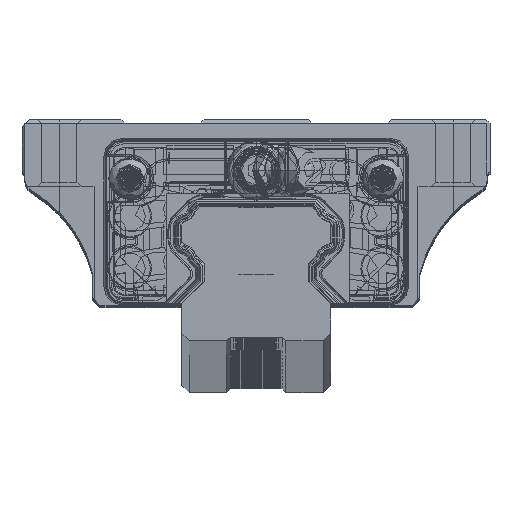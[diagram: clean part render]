
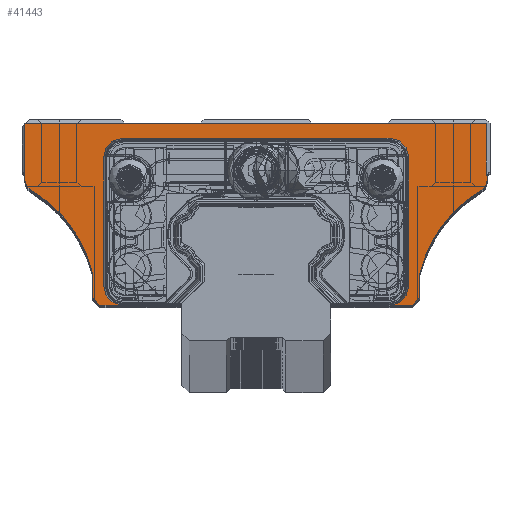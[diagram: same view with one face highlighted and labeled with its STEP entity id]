
A CAD part, top view. The second image highlights one B-rep face of the part: STEP entity #41443.
In plain terms, the highlighted planar face has unit normal (0, 0, 1).
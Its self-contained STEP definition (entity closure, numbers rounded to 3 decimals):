
#12719=CARTESIAN_POINT('',(18.,10.45,31.7));
#12720=DIRECTION('',(0.,0.,1.));
#12721=DIRECTION('',(1.,0.,0.));
#12722=AXIS2_PLACEMENT_3D('',#12719,#12720,#12721);
#12724=CARTESIAN_POINT('',(-18.,10.45,31.7));
#12725=DIRECTION('',(0.,0.,1.));
#12726=DIRECTION('',(0.,1.,0.));
#12727=AXIS2_PLACEMENT_3D('',#12724,#12725,#12726);
#12729=CARTESIAN_POINT('',(-18.,-7.,31.7));
#12730=DIRECTION('',(0.,0.,1.));
#12731=DIRECTION('',(-1.,0.,0.));
#12732=AXIS2_PLACEMENT_3D('',#12729,#12730,#12731);
#12734=DIRECTION('',(-1.,0.,0.));
#12735=VECTOR('',#12734,3.025);
#12736=CARTESIAN_POINT('',(-18.,-9.5,31.7));
#12737=LINE('',#12736,#12735);
#12738=DIRECTION('',(-0.707,0.707,0.));
#12739=VECTOR('',#12738,1.414);
#12740=CARTESIAN_POINT('',(-21.025,-9.5,31.7));
#12741=LINE('',#12740,#12739);
#12742=DIRECTION('',(0.,1.,0.));
#12743=VECTOR('',#12742,3.316);
#12744=CARTESIAN_POINT('',(-22.025,-8.5,31.7));
#12745=LINE('',#12744,#12743);
#12746=CARTESIAN_POINT('',(-39.5,-9.5,31.7));
#12747=DIRECTION('',(0.,0.,1.));
#12748=DIRECTION('',(0.971,0.24,0.));
#12749=AXIS2_PLACEMENT_3D('',#12746,#12747,#12748);
#12751=CARTESIAN_POINT('',(-29.6,7.3,31.7));
#12752=DIRECTION('',(0.,0.,-1.));
#12753=DIRECTION('',(-0.508,-0.862,0.));
#12754=AXIS2_PLACEMENT_3D('',#12751,#12752,#12753);
#12756=DIRECTION('',(0.,1.,0.));
#12757=VECTOR('',#12756,0.8);
#12758=CARTESIAN_POINT('',(-31.1,7.3,31.7));
#12759=LINE('',#12758,#12757);
#12760=DIRECTION('',(-0.707,0.707,0.));
#12761=VECTOR('',#12760,0.141);
#12762=CARTESIAN_POINT('',(-31.1,8.1,31.7));
#12763=LINE('',#12762,#12761);
#12764=DIRECTION('',(0.,1.,0.));
#12765=VECTOR('',#12764,6.6);
#12766=CARTESIAN_POINT('',(-31.2,8.2,31.7));
#12767=LINE('',#12766,#12765);
#12768=DIRECTION('',(0.707,0.707,0.));
#12769=VECTOR('',#12768,0.141);
#12770=CARTESIAN_POINT('',(-31.2,14.8,31.7));
#12771=LINE('',#12770,#12769);
#12772=DIRECTION('',(1.,0.,0.));
#12773=VECTOR('',#12772,62.05);
#12774=CARTESIAN_POINT('',(-31.1,14.9,31.7));
#12775=LINE('',#12774,#12773);
#12776=DIRECTION('',(0.,-1.,0.));
#12777=VECTOR('',#12776,6.9);
#12778=CARTESIAN_POINT('',(30.95,14.9,31.7));
#12779=LINE('',#12778,#12777);
#12780=DIRECTION('',(0.707,0.707,0.));
#12781=VECTOR('',#12780,0.141);
#12782=CARTESIAN_POINT('',(30.95,8.,31.7));
#12783=LINE('',#12782,#12781);
#12784=DIRECTION('',(0.,-1.,0.));
#12785=VECTOR('',#12784,0.83);
#12786=CARTESIAN_POINT('',(31.05,8.1,31.7));
#12787=LINE('',#12786,#12785);
#12788=CARTESIAN_POINT('',(29.55,7.27,31.7));
#12789=DIRECTION('',(0.,0.,-1.));
#12790=DIRECTION('',(1.,0.,0.));
#12791=AXIS2_PLACEMENT_3D('',#12788,#12789,#12790);
#12793=CARTESIAN_POINT('',(39.5,-9.5,31.7));
#12794=DIRECTION('',(0.,0.,1.));
#12795=DIRECTION('',(-0.51,0.86,0.));
#12796=AXIS2_PLACEMENT_3D('',#12793,#12794,#12795);
#12798=DIRECTION('',(0.,-1.,0.));
#12799=VECTOR('',#12798,3.316);
#12800=CARTESIAN_POINT('',(22.025,-5.184,31.7));
#12801=LINE('',#12800,#12799);
#12802=DIRECTION('',(-0.707,-0.707,0.));
#12803=VECTOR('',#12802,1.414);
#12804=CARTESIAN_POINT('',(22.025,-8.5,31.7));
#12805=LINE('',#12804,#12803);
#12806=DIRECTION('',(-1.,0.,0.));
#12807=VECTOR('',#12806,3.025);
#12808=CARTESIAN_POINT('',(21.025,-9.5,31.7));
#12809=LINE('',#12808,#12807);
#12810=CARTESIAN_POINT('',(18.,-7.,31.7));
#12811=DIRECTION('',(0.,0.,1.));
#12812=DIRECTION('',(0.,-1.,0.));
#12813=AXIS2_PLACEMENT_3D('',#12810,#12811,#12812);
#12823=DIRECTION('',(0.,-1.,0.));
#12824=VECTOR('',#12823,17.45);
#12825=CARTESIAN_POINT('',(20.5,10.45,31.7));
#12826=LINE('',#12825,#12824);
#35048=DIRECTION('',(0.,1.,0.));
#35049=VECTOR('',#35048,17.45);
#35050=CARTESIAN_POINT('',(-20.5,-7.,31.7));
#35051=LINE('',#35050,#35049);
#35060=DIRECTION('',(1.,0.,0.));
#35061=VECTOR('',#35060,36.);
#35062=CARTESIAN_POINT('',(-18.,12.95,31.7));
#35063=LINE('',#35062,#35061);
#36844=CARTESIAN_POINT('',(-18.,-9.5,31.7));
#36845=VERTEX_POINT('',#36844);
#36846=CARTESIAN_POINT('',(-21.025,-9.5,31.7));
#36847=VERTEX_POINT('',#36846);
#36852=CARTESIAN_POINT('',(-20.5,-7.,31.7));
#36853=VERTEX_POINT('',#36852);
#36856=CARTESIAN_POINT('',(20.5,10.45,31.7));
#36857=CARTESIAN_POINT('',(18.,12.95,31.7));
#36858=VERTEX_POINT('',#36856);
#36859=VERTEX_POINT('',#36857);
#36860=CARTESIAN_POINT('',(-18.,12.95,31.7));
#36861=VERTEX_POINT('',#36860);
#36862=CARTESIAN_POINT('',(-20.5,10.45,31.7));
#36863=VERTEX_POINT('',#36862);
#36864=CARTESIAN_POINT('',(-22.025,-8.5,31.7));
#36865=VERTEX_POINT('',#36864);
#36866=CARTESIAN_POINT('',(-22.025,-5.184,31.7));
#36867=VERTEX_POINT('',#36866);
#36868=CARTESIAN_POINT('',(-30.362,6.008,31.7));
#36869=VERTEX_POINT('',#36868);
#36870=CARTESIAN_POINT('',(-31.1,7.3,31.7));
#36871=VERTEX_POINT('',#36870);
#36872=CARTESIAN_POINT('',(-31.1,8.1,31.7));
#36873=VERTEX_POINT('',#36872);
#36874=CARTESIAN_POINT('',(-31.2,8.2,31.7));
#36875=VERTEX_POINT('',#36874);
#36876=CARTESIAN_POINT('',(-31.2,14.8,31.7));
#36877=VERTEX_POINT('',#36876);
#36878=CARTESIAN_POINT('',(-31.1,14.9,31.7));
#36879=VERTEX_POINT('',#36878);
#36880=CARTESIAN_POINT('',(30.95,14.9,31.7));
#36881=VERTEX_POINT('',#36880);
#36882=CARTESIAN_POINT('',(30.95,8.,31.7));
#36883=VERTEX_POINT('',#36882);
#36884=CARTESIAN_POINT('',(31.05,8.1,31.7));
#36885=VERTEX_POINT('',#36884);
#36886=CARTESIAN_POINT('',(31.05,7.27,31.7));
#36887=VERTEX_POINT('',#36886);
#36888=CARTESIAN_POINT('',(30.315,5.98,31.7));
#36889=VERTEX_POINT('',#36888);
#36890=CARTESIAN_POINT('',(22.025,-5.184,31.7));
#36891=VERTEX_POINT('',#36890);
#36892=CARTESIAN_POINT('',(22.025,-8.5,31.7));
#36893=VERTEX_POINT('',#36892);
#36894=CARTESIAN_POINT('',(21.025,-9.5,31.7));
#36895=VERTEX_POINT('',#36894);
#36896=CARTESIAN_POINT('',(18.,-9.5,31.7));
#36897=VERTEX_POINT('',#36896);
#36898=CARTESIAN_POINT('',(20.5,-7.,31.7));
#36899=VERTEX_POINT('',#36898);
#41388=CARTESIAN_POINT('',(-0.075,2.7,31.7));
#41389=DIRECTION('',(0.,0.,1.));
#41390=DIRECTION('',(1.,0.,0.));
#41391=AXIS2_PLACEMENT_3D('',#41388,#41389,#41390);
#41392=PLANE('',#41391);
#41394=ORIENTED_EDGE('',*,*,#41393,.T.);
#41396=ORIENTED_EDGE('',*,*,#41395,.F.);
#41398=ORIENTED_EDGE('',*,*,#41397,.T.);
#41400=ORIENTED_EDGE('',*,*,#41399,.F.);
#41401=ORIENTED_EDGE('',*,*,#41378,.T.);
#41402=ORIENTED_EDGE('',*,*,#41352,.T.);
#41404=ORIENTED_EDGE('',*,*,#41403,.T.);
#41406=ORIENTED_EDGE('',*,*,#41405,.T.);
#41408=ORIENTED_EDGE('',*,*,#41407,.T.);
#41410=ORIENTED_EDGE('',*,*,#41409,.T.);
#41412=ORIENTED_EDGE('',*,*,#41411,.T.);
#41414=ORIENTED_EDGE('',*,*,#41413,.T.);
#41416=ORIENTED_EDGE('',*,*,#41415,.T.);
#41418=ORIENTED_EDGE('',*,*,#41417,.T.);
#41420=ORIENTED_EDGE('',*,*,#41419,.T.);
#41422=ORIENTED_EDGE('',*,*,#41421,.T.);
#41424=ORIENTED_EDGE('',*,*,#41423,.T.);
#41426=ORIENTED_EDGE('',*,*,#41425,.T.);
#41428=ORIENTED_EDGE('',*,*,#41427,.T.);
#41430=ORIENTED_EDGE('',*,*,#41429,.T.);
#41432=ORIENTED_EDGE('',*,*,#41431,.T.);
#41434=ORIENTED_EDGE('',*,*,#41433,.T.);
#41436=ORIENTED_EDGE('',*,*,#41435,.T.);
#41438=ORIENTED_EDGE('',*,*,#41437,.T.);
#41440=ORIENTED_EDGE('',*,*,#41439,.F.);
#41441=EDGE_LOOP('',(#41394,#41396,#41398,#41400,#41401,#41402,#41404,#41406,
#41408,#41410,#41412,#41414,#41416,#41418,#41420,#41422,#41424,#41426,#41428,
#41430,#41432,#41434,#41436,#41438,#41440));
#41442=FACE_OUTER_BOUND('',#41441,.F.);
#41443=ADVANCED_FACE('',(#41442),#41392,.T.);
#12723=CIRCLE('',#12722,2.5);
#12728=CIRCLE('',#12727,2.5);
#12733=CIRCLE('',#12732,2.5);
#12750=CIRCLE('',#12749,18.);
#12755=CIRCLE('',#12754,1.5);
#12792=CIRCLE('',#12791,1.5);
#12797=CIRCLE('',#12796,18.);
#12814=CIRCLE('',#12813,2.5);
#41352=EDGE_CURVE('',#36845,#36847,#12737,.T.);
#41378=EDGE_CURVE('',#36853,#36845,#12733,.T.);
#41393=EDGE_CURVE('',#36858,#36859,#12723,.T.);
#41395=EDGE_CURVE('',#36861,#36859,#35063,.T.);
#41397=EDGE_CURVE('',#36861,#36863,#12728,.T.);
#41399=EDGE_CURVE('',#36853,#36863,#35051,.T.);
#41403=EDGE_CURVE('',#36847,#36865,#12741,.T.);
#41405=EDGE_CURVE('',#36865,#36867,#12745,.T.);
#41407=EDGE_CURVE('',#36867,#36869,#12750,.T.);
#41409=EDGE_CURVE('',#36869,#36871,#12755,.T.);
#41411=EDGE_CURVE('',#36871,#36873,#12759,.T.);
#41413=EDGE_CURVE('',#36873,#36875,#12763,.T.);
#41415=EDGE_CURVE('',#36875,#36877,#12767,.T.);
#41417=EDGE_CURVE('',#36877,#36879,#12771,.T.);
#41419=EDGE_CURVE('',#36879,#36881,#12775,.T.);
#41421=EDGE_CURVE('',#36881,#36883,#12779,.T.);
#41423=EDGE_CURVE('',#36883,#36885,#12783,.T.);
#41425=EDGE_CURVE('',#36885,#36887,#12787,.T.);
#41427=EDGE_CURVE('',#36887,#36889,#12792,.T.);
#41429=EDGE_CURVE('',#36889,#36891,#12797,.T.);
#41431=EDGE_CURVE('',#36891,#36893,#12801,.T.);
#41433=EDGE_CURVE('',#36893,#36895,#12805,.T.);
#41435=EDGE_CURVE('',#36895,#36897,#12809,.T.);
#41437=EDGE_CURVE('',#36897,#36899,#12814,.T.);
#41439=EDGE_CURVE('',#36858,#36899,#12826,.T.);
